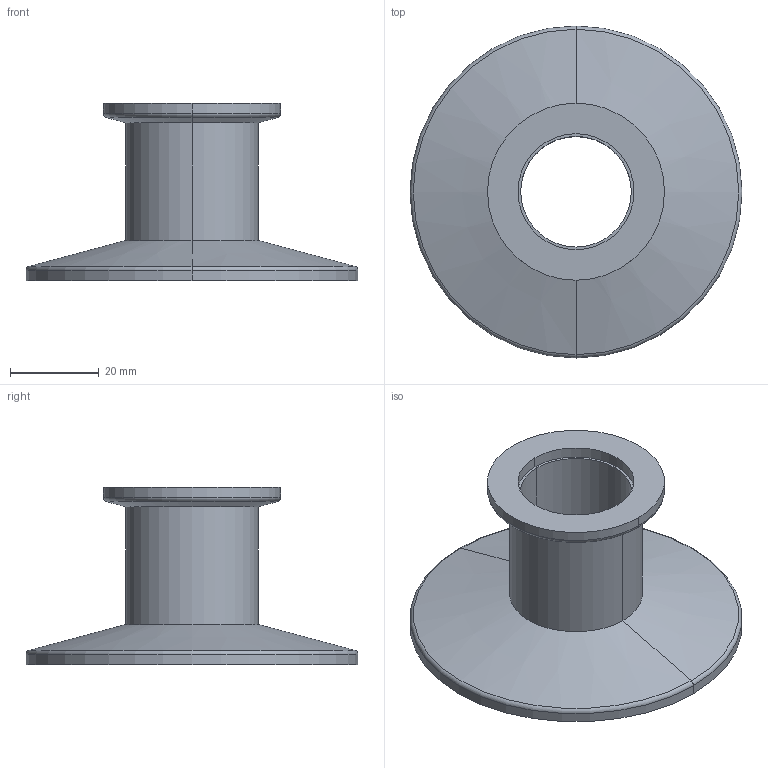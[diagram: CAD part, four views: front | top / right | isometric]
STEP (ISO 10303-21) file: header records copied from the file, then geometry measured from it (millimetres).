
FILE_DESCRIPTION (( 'STEP AP214' ), '1' );
FILE_NAME ('W3RS50-25.STEP', '2019-12-04T08:55:09', ( '' ), ( '' ), 'SwSTEP 2.0', 'SolidWorks 2018', '' );
FILE_SCHEMA (( 'AUTOMOTIVE_DESIGN' ));
Length unit declared in the file: millimetre
Products named in the file (1): W3RS50-25
Bounding box: 75 x 75 x 40 mm (x, y, z)
Volume: 27076.8 mm3; surface area: 15980 mm2
Topology: 1 solids, 1 shells, 24 faces, 48 edges, 28 vertices
Faces by surface type: cylinder 12, torus 4, cone 4, plane 4
Entity records: 666 total; most frequent: DIRECTION 130, CARTESIAN_POINT 101, ORIENTED_EDGE 96, AXIS2_PLACEMENT_3D 57, EDGE_CURVE 48, CIRCLE 32, VERTEX_POINT 28, EDGE_LOOP 28
